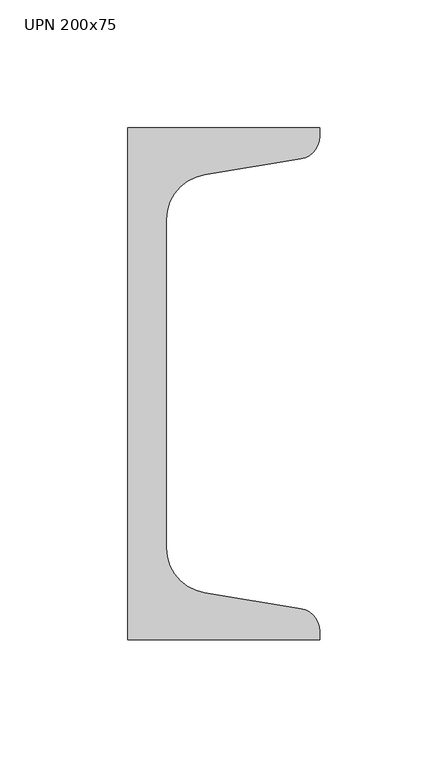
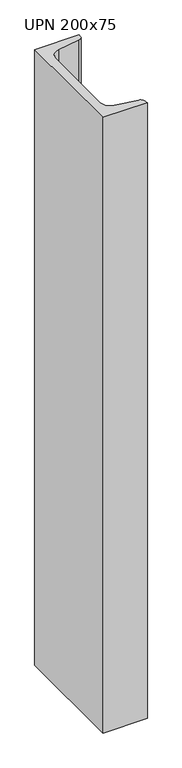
"""IFC4 building model written with IfcOpenShell, lengths in millimetres: column geometry, M_MC Shapes-Column : UPN 200x75."""

from ifc_helpers import new_model, si_unit, point, frame, frame_2d, origin, place, context, project, spatial, polyline, circle_curve, trimmed, segment, composite_curve, outline, extrude, source, transform, mapped, element, save


def upn_200x75_9e4be795(model_context):
    return source(origin(), model_context, "Body", "SweptSolid", [
        extrude(outline(composite_curve([segment(polyline([(-26.4, -100.0), (-26.4, 100.0), (48.6, 100.0), (48.6, 96.7227759)]), True, "CONTINUOUS"), segment(trimmed(circle_curve(frame_2d((39.7, 96.7227759)), 8.9), [point((48.6, 96.7227759))], [point((41.1631538, 87.9438705))], False, "CARTESIAN"), True, "CONTINUOUS"), segment(polyline([(41.1631538, 87.9438705), (3.4736923, 81.662281)]), True, "CONTINUOUS"), segment(trimmed(circle_curve(frame_2d((6.4, 64.1044701)), 17.8), [point((3.4736923, 81.662281))], [point((-11.4, 64.1044701))], True, "CARTESIAN"), True, "CONTINUOUS"), segment(polyline([(-11.4, 64.1044701), (-11.4, -64.1044701)]), True, "CONTINUOUS"), segment(trimmed(circle_curve(frame_2d((6.4, -64.1044701)), 17.8), [point((-11.4, -64.1044701))], [point((3.4736923, -81.662281))], True, "CARTESIAN"), True, "CONTINUOUS"), segment(polyline([(3.4736923, -81.662281), (41.1631538, -87.9438705)]), True, "CONTINUOUS"), segment(trimmed(circle_curve(frame_2d((39.7, -96.7227759)), 8.9), [point((41.1631538, -87.9438705))], [point((48.6, -96.7227759))], False, "CARTESIAN"), True, "CONTINUOUS"), segment(polyline([(48.6, -96.7227759), (48.6, -100.0), (-26.4, -100.0)]), True, "CONTINUOUS")], self_intersect=False)), frame((0.0, 0.0, 37860.0), z_axis=(0.0, 0.0, 1.0), x_axis=(1.0, 0.0, 0.0)), (0.0, 0.0, 1.0), 1100.2),
    ])


if __name__ == "__main__":
    model = new_model("IFC4")
    model_context = context("Model", 3, world=origin())
    ifc_project = project(units=[si_unit("LENGTHUNIT", "METRE", prefix="MILLI")], contexts=[model_context])
    site = spatial("IfcSite", under=ifc_project)
    building = spatial("IfcBuilding", under=site)
    placement = place(None, origin())
    upn_200x75_shape = upn_200x75_9e4be795(model_context)
    element("IfcColumn", 1, ObjectType="M_MC Shapes-Column : UPN 200x75", at=placement, inside=building, context=model_context, shape_type="MappedRepresentation", body=[
        mapped(upn_200x75_shape, transform((0.0, 0.0, 0.0), x_axis=(1.0, 0.0, 0.0), y_axis=(0.0, 1.0, 0.0), z_axis=(0.0, 0.0, 1.0))),
    ])
    save(model, "model.ifc")
